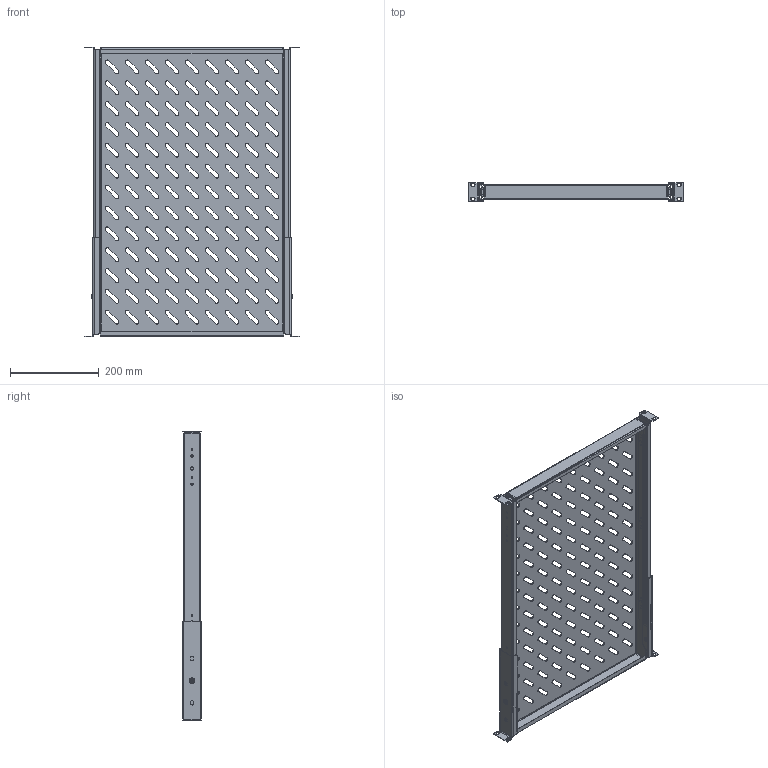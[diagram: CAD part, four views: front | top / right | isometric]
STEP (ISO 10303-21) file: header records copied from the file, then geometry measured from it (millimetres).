
FILE_DESCRIPTION (( 'STEP AP214' ), '1' );
FILE_NAME ('SH 48.65 IÌ Ïîëêà 19'''' âûäâèæíàÿ (650 ìì.).STEP', '2022-08-17T13:22:49', ( '' ), ( '' ), 'SwSTEP 2.0', 'SolidWorks 2018', '' );
FILE_SCHEMA (( 'AUTOMOTIVE_DESIGN' ));
Length unit declared in the file: millimetre
Products named in the file (1): SH 48.65 IÌ Ïîëêà 19'''' âûäâèæíàÿ (650 ìì.)
Bounding box: 482.6 x 43.6 x 652.8 mm (x, y, z)
Volume: 687116.6 mm3; surface area: 1091233.8 mm2
Topology: 15 solids, 15 shells, 1375 faces, 3635 edges, 2276 vertices
Faces by surface type: plane 724, cylinder 627, cone 8, torus 8, sphere 4, bspline 4
Entity records: 58468 total; most frequent: DIRECTION 7657, CARTESIAN_POINT 7511, ORIENTED_EDGE 7262, EDGE_CURVE 3631, AXIS2_PLACEMENT_3D 2662, LINE 2333, VECTOR 2333, VERTEX_POINT 2276
